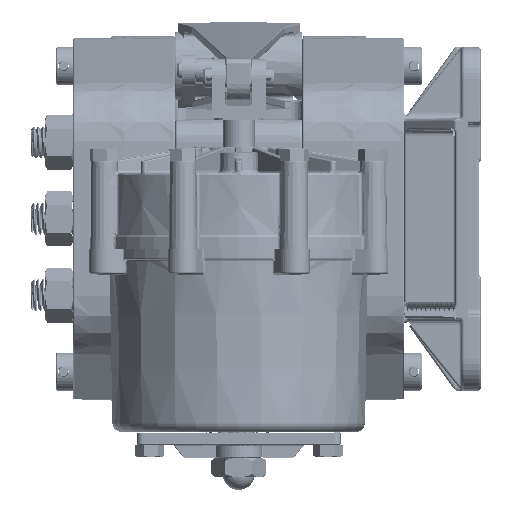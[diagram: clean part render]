
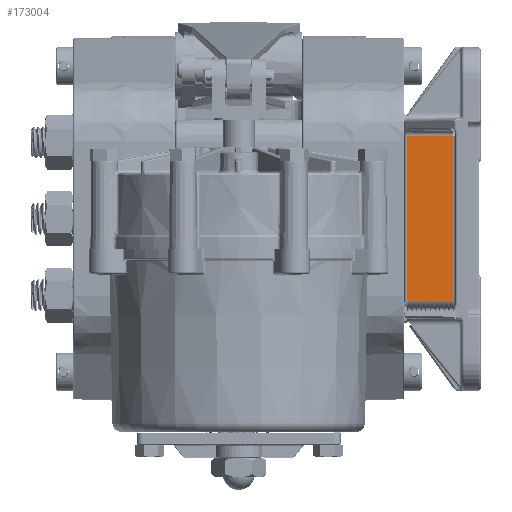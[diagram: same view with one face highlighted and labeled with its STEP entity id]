
A CAD part, left-side view. The second image highlights one B-rep face of the part: STEP entity #173004.
In plain terms, the highlighted planar face has unit normal (-1, 0.018, 0).
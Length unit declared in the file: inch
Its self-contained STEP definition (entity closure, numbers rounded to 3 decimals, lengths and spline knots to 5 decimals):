
#14809 = DIRECTION ( 'NONE',  ( 0.017, 1., 0. ) ) ;
#28763 = VERTEX_POINT ( 'NONE', #202190 ) ;
#33417 = CARTESIAN_POINT ( 'NONE',  ( -4.01465, -3.29913, 1.625 ) ) ;
#35646 = VERTEX_POINT ( 'NONE', #61022 ) ;
#45474 = EDGE_LOOP ( 'NONE', ( #211418, #195680, #160800, #246543 ) ) ;
#61022 = CARTESIAN_POINT ( 'NONE',  ( -4.03039, -4.20087, -1.625 ) ) ;
#62745 = DIRECTION ( 'NONE',  ( -0.017, -1., 0. ) ) ;
#74503 = FACE_OUTER_BOUND ( 'NONE', #45474, .T. ) ;
#102028 = DIRECTION ( 'NONE',  ( -1., 0.017, 0. ) ) ;
#117213 = AXIS2_PLACEMENT_3D ( 'NONE', #223663, #102028, #244146 ) ;
#141764 = EDGE_CURVE ( 'NONE', #156434, #188301, #191094, .T. ) ;
#147402 = EDGE_CURVE ( 'NONE', #28763, #35646, #150808, .T. ) ;
#150272 = EDGE_CURVE ( 'NONE', #35646, #156434, #262385, .T. ) ;
#150808 = LINE ( 'NONE', #185489, #252422 ) ;
#153573 = CARTESIAN_POINT ( 'NONE',  ( -4.01465, -3.29913, -1.625 ) ) ;
#154343 = VECTOR ( 'NONE', #235383, 39.37008 ) ;
#156397 = CARTESIAN_POINT ( 'NONE',  ( -4.03561, -4.5, 1.625 ) ) ;
#156434 = VERTEX_POINT ( 'NONE', #160419 ) ;
#160419 = CARTESIAN_POINT ( 'NONE',  ( -4.03039, -4.20087, 1.625 ) ) ;
#160800 = ORIENTED_EDGE ( 'NONE', *, *, #147402, .T. ) ;
#173004 = ADVANCED_FACE ( 'NONE', ( #74503 ), #263768, .T. ) ;
#174373 = CARTESIAN_POINT ( 'NONE',  ( -4.03039, -4.20087, 0. ) ) ;
#185489 = CARTESIAN_POINT ( 'NONE',  ( -4.03561, -4.5, -1.625 ) ) ;
#188235 = EDGE_CURVE ( 'NONE', #188301, #28763, #194747, .T. ) ;
#188301 = VERTEX_POINT ( 'NONE', #33417 ) ;
#191094 = LINE ( 'NONE', #156397, #238582 ) ;
#194747 = LINE ( 'NONE', #153573, #242281 ) ;
#195680 = ORIENTED_EDGE ( 'NONE', *, *, #188235, .T. ) ;
#202190 = CARTESIAN_POINT ( 'NONE',  ( -4.01465, -3.29913, -1.625 ) ) ;
#211418 = ORIENTED_EDGE ( 'NONE', *, *, #141764, .T. ) ;
#223663 = CARTESIAN_POINT ( 'NONE',  ( -4.03561, -4.5, 0. ) ) ;
#235383 = DIRECTION ( 'NONE',  ( 0., 0., 1. ) ) ;
#238582 = VECTOR ( 'NONE', #14809, 39.37008 ) ;
#242281 = VECTOR ( 'NONE', #254807, 39.37008 ) ;
#244146 = DIRECTION ( 'NONE',  ( -0.017, -1., 0. ) ) ;
#246543 = ORIENTED_EDGE ( 'NONE', *, *, #150272, .T. ) ;
#252422 = VECTOR ( 'NONE', #62745, 39.37008 ) ;
#254807 = DIRECTION ( 'NONE',  ( 0., 0., -1. ) ) ;
#262385 = LINE ( 'NONE', #174373, #154343 ) ;
#263768 = PLANE ( 'NONE',  #117213 ) ;
